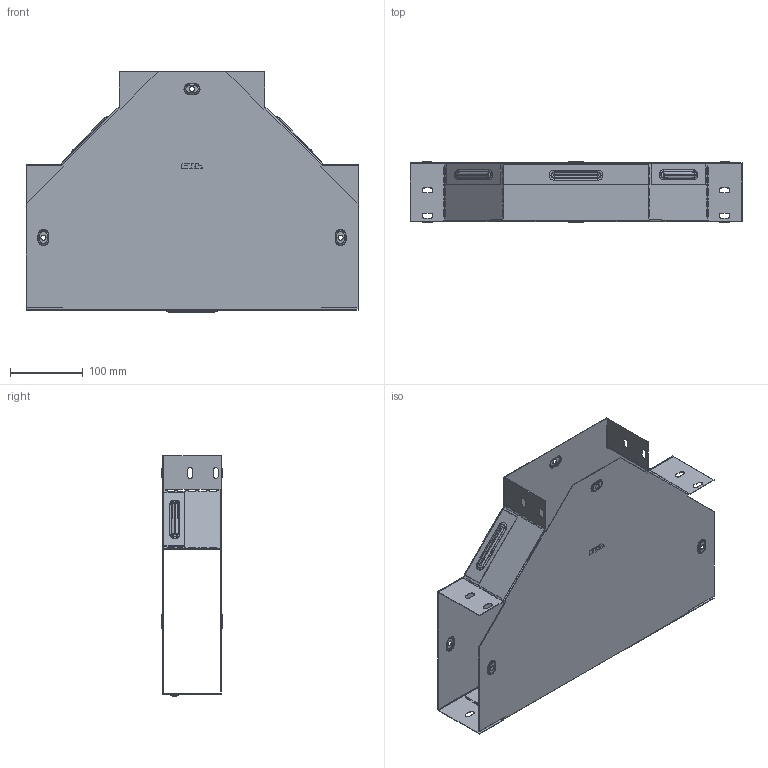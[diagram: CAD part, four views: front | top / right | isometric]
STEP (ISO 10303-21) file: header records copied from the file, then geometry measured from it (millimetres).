
FILE_DESCRIPTION (( 'STEP AP214' ), '1' );
FILE_NAME ('t8020008_捘.STEP', '2019-06-10T08:12:01', ( '砐錪賧瘔蠈錪 Windows' ), ( '' ), 'SwSTEP 2.0', 'SolidWorks 2018', '' );
FILE_SCHEMA (( 'AUTOMOTIVE_DESIGN' ));
Length unit declared in the file: millimetre
Products named in the file (1): t8020008_捘
Bounding box: 456.4 x 83.8 x 331 mm (x, y, z)
Volume: 259025.2 mm3; surface area: 651944.7 mm2
Topology: 2 solids, 2 shells, 716 faces, 2040 edges, 1324 vertices
Faces by surface type: plane 394, cylinder 208, torus 96, bspline 18
Entity records: 24409 total; most frequent: CARTESIAN_POINT 5161, ORIENTED_EDGE 4080, DIRECTION 3962, EDGE_CURVE 2040, LINE 1444, VECTOR 1444, VERTEX_POINT 1324, AXIS2_PLACEMENT_3D 1259
